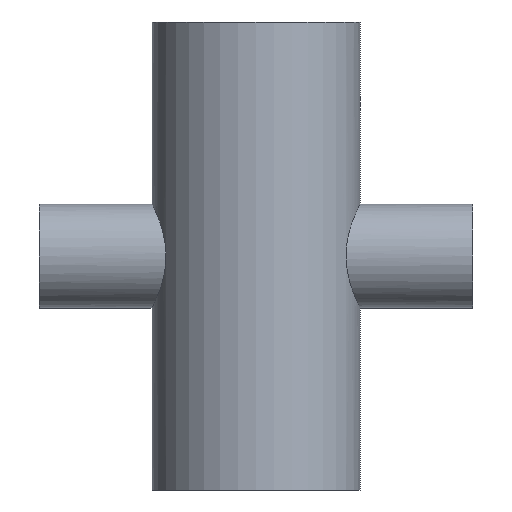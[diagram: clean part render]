
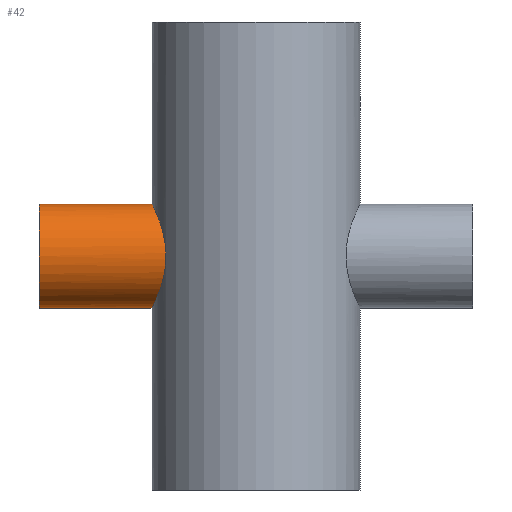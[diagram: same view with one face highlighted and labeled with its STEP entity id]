
A CAD part, front view. The second image highlights one B-rep face of the part: STEP entity #42.
In plain terms, the highlighted cylindrical face has radius 19.05 mm (diameter 38.1 mm), a partial arc.
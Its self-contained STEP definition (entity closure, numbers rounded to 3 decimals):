
#7 = CARTESIAN_POINT ( 'NONE',  ( -33.363, -18.4, -4.974 ) ) ;
#11 = CARTESIAN_POINT ( 'NONE',  ( -37.726, -5.333, -18.291 ) ) ;
#13 = VECTOR ( 'NONE', #866, 1000. ) ;
#16 = CARTESIAN_POINT ( 'NONE',  ( -33.085, -18.895, -2.509 ) ) ;
#18 = CARTESIAN_POINT ( 'NONE',  ( -33.678, -17.818, -6.768 ) ) ;
#27 = CARTESIAN_POINT ( 'NONE',  ( -37.592, -6.232, -18.013 ) ) ;
#28 = CARTESIAN_POINT ( 'NONE',  ( -37.844, -4.416, -18.534 ) ) ;
#30 = CARTESIAN_POINT ( 'NONE',  ( -34.054, -17.095, -8.498 ) ) ;
#35 = EDGE_CURVE ( 'NONE', #246, #273, #224, .T. ) ;
#42 = ADVANCED_FACE ( 'NONE', ( #122 ), #130, .T. ) ;
#57 = CARTESIAN_POINT ( 'NONE',  ( -37.768, -5.03, -18.377 ) ) ;
#58 = CARTESIAN_POINT ( 'NONE',  ( -79.375, 0., -19.05 ) ) ;
#61 = CARTESIAN_POINT ( 'NONE',  ( -37.88, -4.105, -18.605 ) ) ;
#77 = CARTESIAN_POINT ( 'NONE',  ( -34.348, -16.503, 9.595 ) ) ;
#82 = CARTESIAN_POINT ( 'NONE',  ( -35.305, -14.33, -12.567 ) ) ;
#87 = CARTESIAN_POINT ( 'NONE',  ( -34.977, -15.112, -11.615 ) ) ;
#106 = DIRECTION ( 'NONE',  ( 1., 0., 0. ) ) ;
#122 = FACE_OUTER_BOUND ( 'NONE', #766, .T. ) ;
#127 = CARTESIAN_POINT ( 'NONE',  ( -36.874, -9.604, -16.463 ) ) ;
#130 = CYLINDRICAL_SURFACE ( 'NONE', #774, 19.05 ) ;
#131 = CARTESIAN_POINT ( 'NONE',  ( -35.959, -12.625, -14.318 ) ) ;
#151 = CARTESIAN_POINT ( 'NONE',  ( -37.14, -8.516, -17.052 ) ) ;
#169 = CARTESIAN_POINT ( 'NONE',  ( -36.731, -10.137, -16.141 ) ) ;
#211 = CARTESIAN_POINT ( 'NONE',  ( -35.472, -13.912, 13.028 ) ) ;
#224 = B_SPLINE_CURVE_WITH_KNOTS ( 'NONE', 3,
 ( #598, #531, #513, #673, #562, #645, #711, #685, #717, #735, #384, #352, #299, #211, #750, #758, #768, #77, #922, #831, #798, #827, #844, #896, #843, #870, #834, #875, #909, #917, #914, #16, #918, #926, #7, #665, #18, #30, #961, #566, #87, #82, #319, #131, #316, #169, #127, #151, #521, #679, #27, #11, #57, #28, #61, #955, #849, #759 ),
 .UNSPECIFIED., .F., .F.,
 ( 4, 2, 2, 2, 2, 2, 2, 2, 2, 2, 2, 2, 2, 2, 2, 2, 2, 2, 2, 2, 2, 2, 2, 2, 2, 2, 2, 2, 4 ),
 ( 0., 0.004, 0.006, 0.008, 0.011, 0.013, 0.015, 0.017, 0.019, 0.023, 0.025, 0.026, 0.026, 0.03, 0.031, 0.032, 0.034, 0.036, 0.038, 0.042, 0.044, 0.045, 0.049, 0.051, 0.053, 0.055, 0.056, 0.057, 0.061 ),
 .UNSPECIFIED. ) ;
#246 = VERTEX_POINT ( 'NONE', #794 ) ;
#273 = VERTEX_POINT ( 'NONE', #804 ) ;
#285 = EDGE_CURVE ( 'NONE', #543, #246, #587, .T. ) ;
#299 = CARTESIAN_POINT ( 'NONE',  ( -35.799, -13.049, 13.892 ) ) ;
#316 = CARTESIAN_POINT ( 'NONE',  ( -36.281, -11.682, -15.099 ) ) ;
#319 = CARTESIAN_POINT ( 'NONE',  ( -35.47, -13.919, -13.021 ) ) ;
#322 = VECTOR ( 'NONE', #106, 1000. ) ;
#339 = ORIENTED_EDGE ( 'NONE', *, *, #379, .T. ) ;
#352 = CARTESIAN_POINT ( 'NONE',  ( -35.961, -12.597, 14.304 ) ) ;
#378 = DIRECTION ( 'NONE',  ( 0., 0., -1. ) ) ;
#379 = EDGE_CURVE ( 'NONE', #803, #273, #514, .T. ) ;
#384 = CARTESIAN_POINT ( 'NONE',  ( -36.279, -11.649, 15.086 ) ) ;
#437 = DIRECTION ( 'NONE',  ( 1., 0., 0. ) ) ;
#453 = ORIENTED_EDGE ( 'NONE', *, *, #644, .T. ) ;
#482 = ORIENTED_EDGE ( 'NONE', *, *, #35, .F. ) ;
#513 = CARTESIAN_POINT ( 'NONE',  ( -38.036, -2.537, 18.922 ) ) ;
#514 = LINE ( 'NONE', #58, #322 ) ;
#521 = CARTESIAN_POINT ( 'NONE',  ( -37.264, -7.959, -17.319 ) ) ;
#527 = CARTESIAN_POINT ( 'NONE',  ( -79.375, 0., 0. ) ) ;
#531 = CARTESIAN_POINT ( 'NONE',  ( -38.1, -1.281, 19.05 ) ) ;
#543 = VERTEX_POINT ( 'NONE', #668 ) ;
#562 = CARTESIAN_POINT ( 'NONE',  ( -37.776, -4.996, 18.394 ) ) ;
#566 = CARTESIAN_POINT ( 'NONE',  ( -34.815, -15.482, -11.117 ) ) ;
#575 = CARTESIAN_POINT ( 'NONE',  ( -79.375, 0., 0. ) ) ;
#581 = CARTESIAN_POINT ( 'NONE',  ( -79.375, 0., -19.05 ) ) ;
#583 = ORIENTED_EDGE ( 'NONE', *, *, #285, .F. ) ;
#587 = LINE ( 'NONE', #850, #13 ) ;
#598 = CARTESIAN_POINT ( 'NONE',  ( -38.1, 0., 19.05 ) ) ;
#644 = EDGE_CURVE ( 'NONE', #543, #803, #652, .T. ) ;
#645 = CARTESIAN_POINT ( 'NONE',  ( -37.596, -6.205, 18.022 ) ) ;
#652 = CIRCLE ( 'NONE', #690, 19.05 ) ;
#665 = CARTESIAN_POINT ( 'NONE',  ( -33.563, -18.033, -6.173 ) ) ;
#668 = CARTESIAN_POINT ( 'NONE',  ( -79.375, 0., 19.05 ) ) ;
#673 = CARTESIAN_POINT ( 'NONE',  ( -37.852, -4.386, 18.549 ) ) ;
#679 = CARTESIAN_POINT ( 'NONE',  ( -37.49, -6.817, -17.799 ) ) ;
#685 = CARTESIAN_POINT ( 'NONE',  ( -37.153, -8.523, 17.083 ) ) ;
#690 = AXIS2_PLACEMENT_3D ( 'NONE', #575, #437, #814 ) ;
#711 = CARTESIAN_POINT ( 'NONE',  ( -37.493, -6.798, 17.807 ) ) ;
#717 = CARTESIAN_POINT ( 'NONE',  ( -36.884, -9.61, 16.495 ) ) ;
#735 = CARTESIAN_POINT ( 'NONE',  ( -36.436, -11.151, 15.458 ) ) ;
#750 = CARTESIAN_POINT ( 'NONE',  ( -35.308, -14.322, 12.576 ) ) ;
#758 = CARTESIAN_POINT ( 'NONE',  ( -34.982, -15.102, 11.629 ) ) ;
#759 = CARTESIAN_POINT ( 'NONE',  ( -38.1, 0., -19.05 ) ) ;
#766 = EDGE_LOOP ( 'NONE', ( #583, #453, #339, #482 ) ) ;
#768 = CARTESIAN_POINT ( 'NONE',  ( -34.819, -15.472, 11.131 ) ) ;
#774 = AXIS2_PLACEMENT_3D ( 'NONE', #527, #892, #378 ) ;
#794 = CARTESIAN_POINT ( 'NONE',  ( -38.1, 0., 19.05 ) ) ;
#798 = CARTESIAN_POINT ( 'NONE',  ( -33.571, -18.017, 6.219 ) ) ;
#803 = VERTEX_POINT ( 'NONE', #581 ) ;
#804 = CARTESIAN_POINT ( 'NONE',  ( -38.1, 0., -19.05 ) ) ;
#814 = DIRECTION ( 'NONE',  ( 0., 0., -1. ) ) ;
#827 = CARTESIAN_POINT ( 'NONE',  ( -33.42, -18.296, 5.317 ) ) ;
#831 = CARTESIAN_POINT ( 'NONE',  ( -33.685, -17.804, 6.805 ) ) ;
#834 = CARTESIAN_POINT ( 'NONE',  ( -32.997, -19.048, 1.301 ) ) ;
#843 = CARTESIAN_POINT ( 'NONE',  ( -33.247, -18.608, 4.092 ) ) ;
#844 = CARTESIAN_POINT ( 'NONE',  ( -33.373, -18.382, 5.012 ) ) ;
#849 = CARTESIAN_POINT ( 'NONE',  ( -38.1, -1.282, -19.05 ) ) ;
#850 = CARTESIAN_POINT ( 'NONE',  ( -79.375, 0., 19.05 ) ) ;
#866 = DIRECTION ( 'NONE',  ( 1., 0., 0. ) ) ;
#870 = CARTESIAN_POINT ( 'NONE',  ( -33.071, -18.92, 2.551 ) ) ;
#875 = CARTESIAN_POINT ( 'NONE',  ( -32.995, -19.051, -0.283 ) ) ;
#892 = DIRECTION ( 'NONE',  ( 1., 0., 0. ) ) ;
#896 = CARTESIAN_POINT ( 'NONE',  ( -33.286, -18.538, 4.399 ) ) ;
#909 = CARTESIAN_POINT ( 'NONE',  ( -32.999, -19.043, -0.601 ) ) ;
#914 = CARTESIAN_POINT ( 'NONE',  ( -33.031, -18.989, -1.559 ) ) ;
#917 = CARTESIAN_POINT ( 'NONE',  ( -33.017, -19.012, -1.239 ) ) ;
#918 = CARTESIAN_POINT ( 'NONE',  ( -33.138, -18.801, -3.133 ) ) ;
#922 = CARTESIAN_POINT ( 'NONE',  ( -34.058, -17.086, 8.515 ) ) ;
#926 = CARTESIAN_POINT ( 'NONE',  ( -33.278, -18.554, -4.366 ) ) ;
#955 = CARTESIAN_POINT ( 'NONE',  ( -38.035, -2.547, -18.922 ) ) ;
#961 = CARTESIAN_POINT ( 'NONE',  ( -34.345, -16.51, -9.583 ) ) ;
